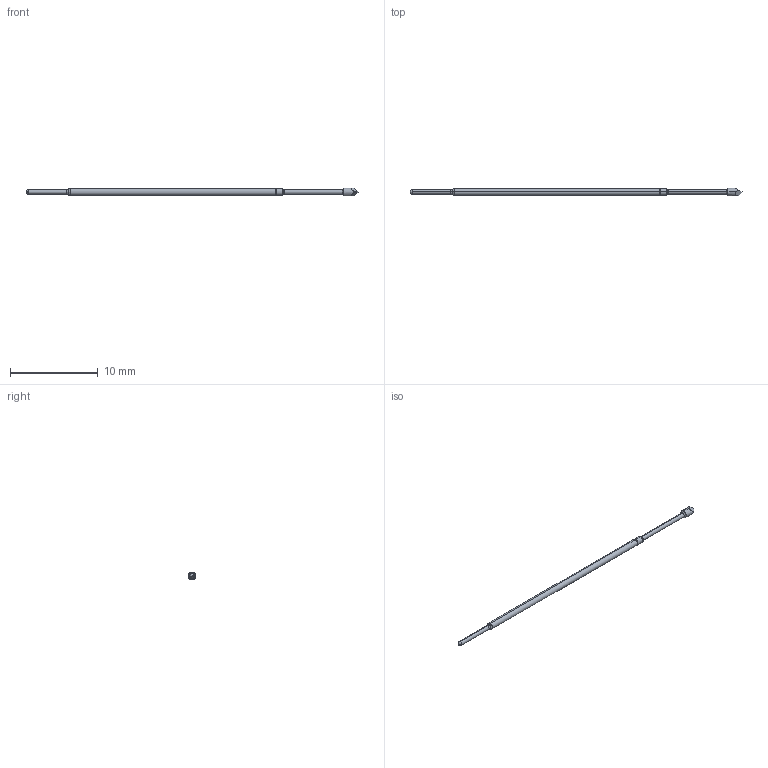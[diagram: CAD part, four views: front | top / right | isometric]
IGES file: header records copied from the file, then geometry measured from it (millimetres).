
Start section: SolidWorks IGES file using analytic representation for surfaces
Global section: file name: C:\Documents and Settings\mrumschlag\Desktop\changes\new\test\T38.IGS; native system: SolidWorks 2011; preprocessor: SolidWorks 2011; author: mrumschlag; date: 110630.142729; units: inch
Bounding box: 37.93 x 0.89 x 0.89 mm (x, y, z)
Surface area: 82.6 mm2 (no closed solid volume)
Topology: 0 solids, 0 shells, 30 faces, 184 edges, 182 vertices
Faces by surface type: revolution 18, bspline 12
